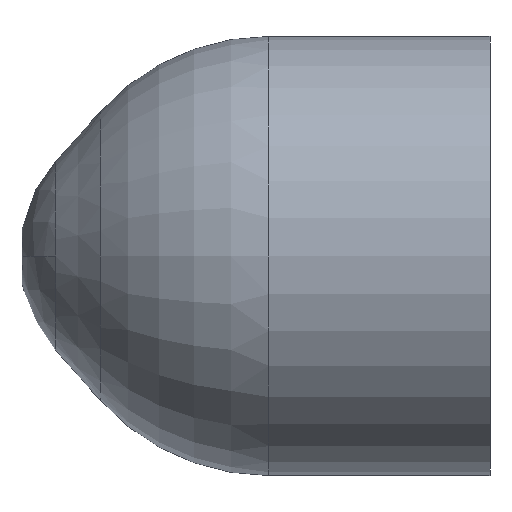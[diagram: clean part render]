
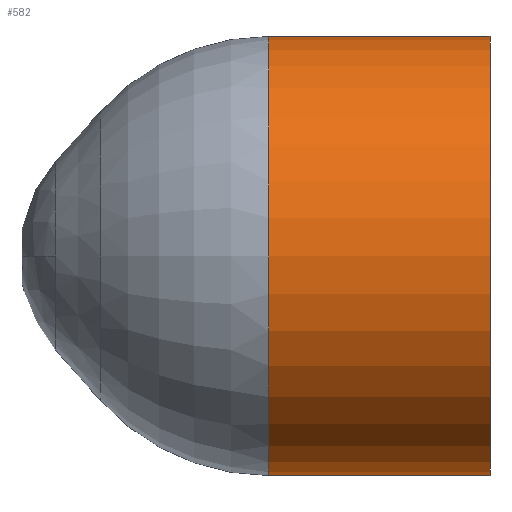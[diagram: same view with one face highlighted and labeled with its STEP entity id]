
A CAD part, front view. The second image highlights one B-rep face of the part: STEP entity #582.
In plain terms, the highlighted cylindrical face has radius 7.76 mm (diameter 15.52 mm), a partial arc.
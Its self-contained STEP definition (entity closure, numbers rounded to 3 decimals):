
#1 = CIRCLE ( 'NONE', #318, 7.76 ) ;
#19 = VERTEX_POINT ( 'NONE', #628 ) ;
#64 = CARTESIAN_POINT ( 'NONE',  ( 0., 0., 0. ) ) ;
#69 = DIRECTION ( 'NONE',  ( 1., 0., 0. ) ) ;
#76 = DIRECTION ( 'NONE',  ( 1., 0., 0. ) ) ;
#88 = CIRCLE ( 'NONE', #172, 7.76 ) ;
#98 = EDGE_CURVE ( 'NONE', #406, #652, #88, .T. ) ;
#102 = AXIS2_PLACEMENT_3D ( 'NONE', #130, #76, #655 ) ;
#119 = CARTESIAN_POINT ( 'NONE',  ( 0., 0., 7.76 ) ) ;
#130 = CARTESIAN_POINT ( 'NONE',  ( 0., 0., 0. ) ) ;
#172 = AXIS2_PLACEMENT_3D ( 'NONE', #64, #176, #391 ) ;
#176 = DIRECTION ( 'NONE',  ( 1., 0., 0. ) ) ;
#178 = CARTESIAN_POINT ( 'NONE',  ( 0., 0., -7.76 ) ) ;
#189 = CYLINDRICAL_SURFACE ( 'NONE', #102, 7.76 ) ;
#190 = EDGE_CURVE ( 'NONE', #19, #406, #220, .T. ) ;
#216 = DIRECTION ( 'NONE',  ( 1., 0., 0. ) ) ;
#218 = CARTESIAN_POINT ( 'NONE',  ( -7.818, 0., -7.76 ) ) ;
#220 = LINE ( 'NONE', #119, #249 ) ;
#227 = DIRECTION ( 'NONE',  ( 1., 0., 0. ) ) ;
#249 = VECTOR ( 'NONE', #216, 1000. ) ;
#253 = ORIENTED_EDGE ( 'NONE', *, *, #510, .T. ) ;
#264 = VECTOR ( 'NONE', #227, 1000. ) ;
#280 = CARTESIAN_POINT ( 'NONE',  ( 0., 0., -7.76 ) ) ;
#318 = AXIS2_PLACEMENT_3D ( 'NONE', #605, #69, #647 ) ;
#333 = LINE ( 'NONE', #280, #264 ) ;
#369 = CARTESIAN_POINT ( 'NONE',  ( 0., 0., 7.76 ) ) ;
#389 = ORIENTED_EDGE ( 'NONE', *, *, #98, .F. ) ;
#391 = DIRECTION ( 'NONE',  ( 0., 0., -1. ) ) ;
#406 = VERTEX_POINT ( 'NONE', #369 ) ;
#442 = ORIENTED_EDGE ( 'NONE', *, *, #190, .F. ) ;
#459 = FACE_OUTER_BOUND ( 'NONE', #665, .T. ) ;
#510 = EDGE_CURVE ( 'NONE', #515, #652, #333, .T. ) ;
#515 = VERTEX_POINT ( 'NONE', #218 ) ;
#582 = ADVANCED_FACE ( 'NONE', ( #459 ), #189, .T. ) ;
#605 = CARTESIAN_POINT ( 'NONE',  ( -7.818, 0., 0. ) ) ;
#609 = EDGE_CURVE ( 'NONE', #19, #515, #1, .T. ) ;
#628 = CARTESIAN_POINT ( 'NONE',  ( -7.818, 0., 7.76 ) ) ;
#647 = DIRECTION ( 'NONE',  ( 0., 0., -1. ) ) ;
#652 = VERTEX_POINT ( 'NONE', #178 ) ;
#655 = DIRECTION ( 'NONE',  ( 0., 0., -1. ) ) ;
#665 = EDGE_LOOP ( 'NONE', ( #442, #670, #253, #389 ) ) ;
#670 = ORIENTED_EDGE ( 'NONE', *, *, #609, .T. ) ;
